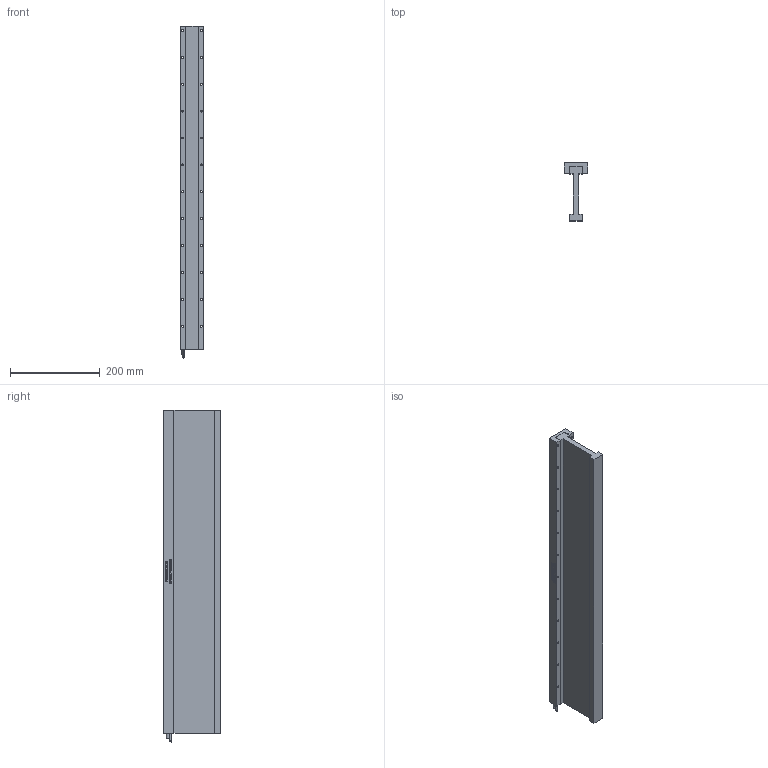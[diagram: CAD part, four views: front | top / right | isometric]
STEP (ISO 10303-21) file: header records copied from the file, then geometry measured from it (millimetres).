
FILE_DESCRIPTION (( 'STEP AP214' ), '1' );
FILE_NAME ('DX90BT-C12-000.STEP', '2016-05-09T09:54:32', ( '' ), ( '' ), 'SwSTEP 2.0', 'SolidWorks 2015', '' );
FILE_SCHEMA (( 'AUTOMOTIVE_DESIGN' ));
Length unit declared in the file: millimetre
Products named in the file (5): CBL_MTR_HALL_SS_5C_SA (#2935-1); CBL_MTR_PWR_SS_7C2C_SA (#2936-1); DX90BT-C12-001_CUSTOMER ; DX90BT-C12-000; DX90B-CX-002_C12
Assembly tree (4 placements, depth 2):
  DX90BT-C12-000
    DX90BT-C12-001_CUSTOMER 
    CBL_MTR_PWR_SS_7C2C_SA (#2936-1)
    CBL_MTR_HALL_SS_5C_SA (#2935-1)
    DX90B-CX-002_C12
Bounding box: 52 x 129 x 741 mm (x, y, z)
Volume: 1914317.2 mm3; surface area: 385188.5 mm2
Topology: 4 solids, 4 shells, 744 faces, 2004 edges, 1336 vertices
Faces by surface type: plane 387, bspline 298, cylinder 59
Entity records: 39881 total; most frequent: CARTESIAN_POINT 22269, ORIENTED_EDGE 4008, DIRECTION 2429, EDGE_CURVE 2004, VERTEX_POINT 1336, VECTOR 1293, LINE 1293, EDGE_LOOP 860
